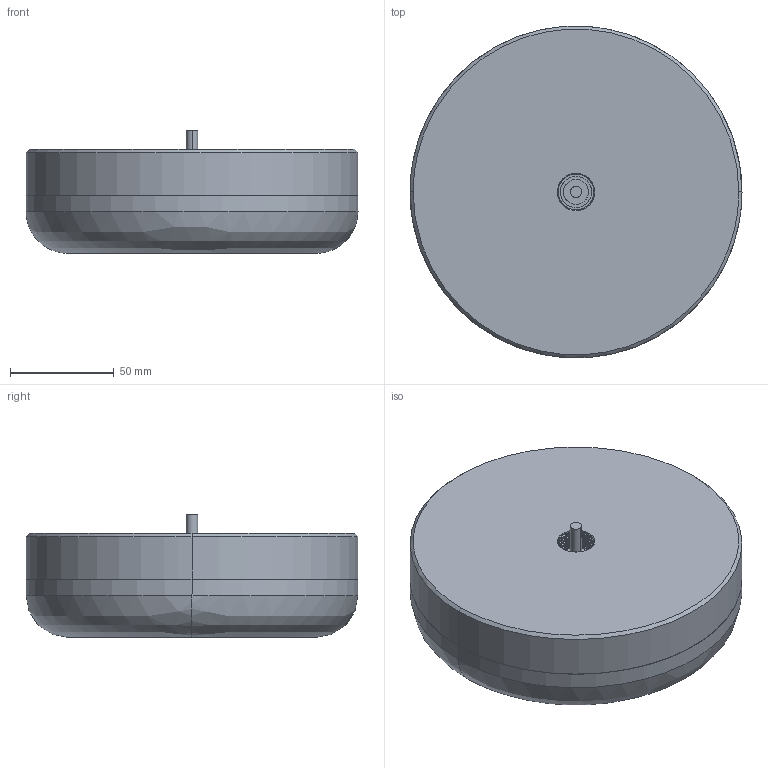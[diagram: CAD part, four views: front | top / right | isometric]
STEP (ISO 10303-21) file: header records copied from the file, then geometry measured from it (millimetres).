
FILE_DESCRIPTION (( 'STEP AP214' ), '1' );
FILE_NAME ('ISES_LED.STEP', '2026-05-29T10:30:04', ( '' ), ( '' ), 'SwSTEP 2.0', 'SolidWorks 2023', '' );
FILE_SCHEMA (( 'AUTOMOTIVE_DESIGN' ));
Length unit declared in the file: millimetre
Products named in the file (1): ISES_LED
Bounding box: 160 x 159.83 x 59 mm (x, y, z)
Surface area: 167601.3 mm2 (no closed solid volume)
Topology: 0 solids, 78 shells, 541 faces, 1200 edges, 791 vertices
Faces by surface type: bspline 541
Entity records: 22288 total; most frequent: CARTESIAN_POINT 14182, ORIENTED_EDGE 2336, EDGE_CURVE 1198, B_SPLINE_CURVE_WITH_KNOTS 961, VERTEX_POINT 791, EDGE_LOOP 555, ADVANCED_FACE 541, FACE_OUTER_BOUND 541
